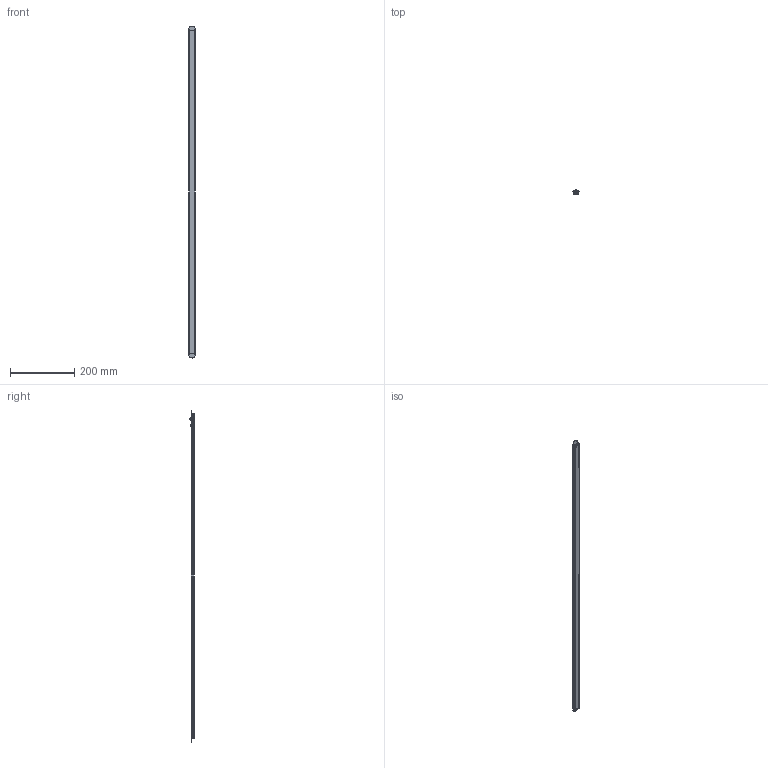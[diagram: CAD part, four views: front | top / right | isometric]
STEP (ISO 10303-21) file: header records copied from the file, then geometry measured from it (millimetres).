
FILE_DESCRIPTION (( 'STEP AP203' ), '1' );
FILE_NAME ('Recessed Profile - With PIR Sensor.STEP', '2025-09-10T13:04:49', ( '' ), ( '' ), 'SwSTEP 2.0', 'SolidWorks 2020', '' );
FILE_SCHEMA (( 'CONFIG_CONTROL_DESIGN' ));
Length unit declared in the file: millimetre
Products named in the file (10): Polar Connector - Large Version for Universal Sensor Housing; Polar Connector - Upper; Profile Touch Dimmer_PIR - No Cable; Diffuser - 18mm_966.5; Polar - Connector Pins; Recessed - Linia Equivalent - 18mm_1 Meter; Recessed Profile - With PIR Sensor; Recessed - Linia Equivalent - End Cap - 18mm; Universal Sensor With Housing - 18mm - Assembly_PIR - No Cable; Universal Sensor Housing - Upper Section - 18mm - V2_PIR
Assembly tree (10 placements, depth 3):
  Recessed Profile - With PIR Sensor
    Recessed - Linia Equivalent - 18mm_1 Meter
    Universal Sensor With Housing - 18mm - Assembly_PIR - No Cable
      Polar Connector - Large Version for Universal Sensor Housing
      Polar - Connector Pins
      Profile Touch Dimmer_PIR - No Cable
      Universal Sensor Housing - Upper Section - 18mm - V2_PIR
      Polar Connector - Upper
    Diffuser - 18mm_966.5
    Recessed - Linia Equivalent - End Cap - 18mm  x2
Bounding box: 20.8 x 12.8 x 1030.8 mm (x, y, z)
Volume: 61657.4 mm3; surface area: 122451.2 mm2
Topology: 10 solids, 10 shells, 1282 faces, 3159 edges, 1803 vertices
Faces by surface type: cylinder 534, plane 417, torus 197, sphere 124, bspline 8, cone 2
Entity records: 32714 total; most frequent: DIRECTION 5899, CARTESIAN_POINT 5592, ORIENTED_EDGE 5252, EDGE_CURVE 2626, AXIS2_PLACEMENT_3D 2206, VERTEX_POINT 1563, LINE 1487, VECTOR 1487
